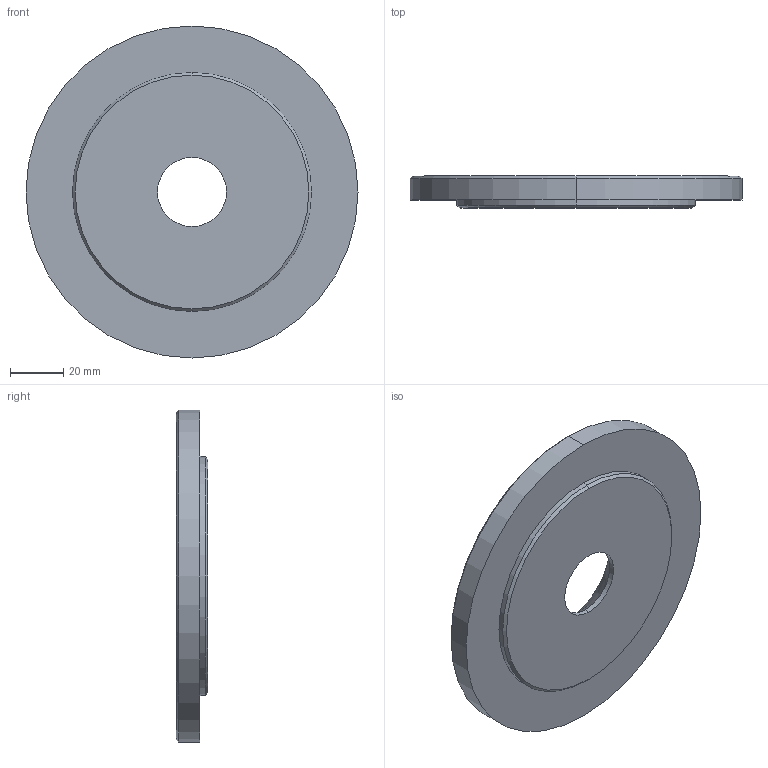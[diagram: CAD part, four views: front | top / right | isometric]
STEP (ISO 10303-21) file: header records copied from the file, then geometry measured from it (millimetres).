
FILE_DESCRIPTION (( 'STEP AP214' ), '1' );
FILE_NAME ('BRLRS-125x26x12.STEP', '2020-02-05T09:35:59', ( 'August' ), ( '' ), 'SwSTEP 2.0', 'SolidWorks 2018', '' );
FILE_SCHEMA (( 'AUTOMOTIVE_DESIGN' ));
Length unit declared in the file: millimetre
Products named in the file (1): BRLRS-125x26x12
Bounding box: 125 x 12 x 125 mm (x, y, z)
Volume: 117693.7 mm3; surface area: 28097.9 mm2
Topology: 1 solids, 1 shells, 15 faces, 30 edges, 18 vertices
Faces by surface type: cone 6, cylinder 6, plane 3
Entity records: 432 total; most frequent: DIRECTION 80, CARTESIAN_POINT 64, ORIENTED_EDGE 60, AXIS2_PLACEMENT_3D 34, EDGE_CURVE 30, VERTEX_POINT 18, CIRCLE 18, EDGE_LOOP 18
